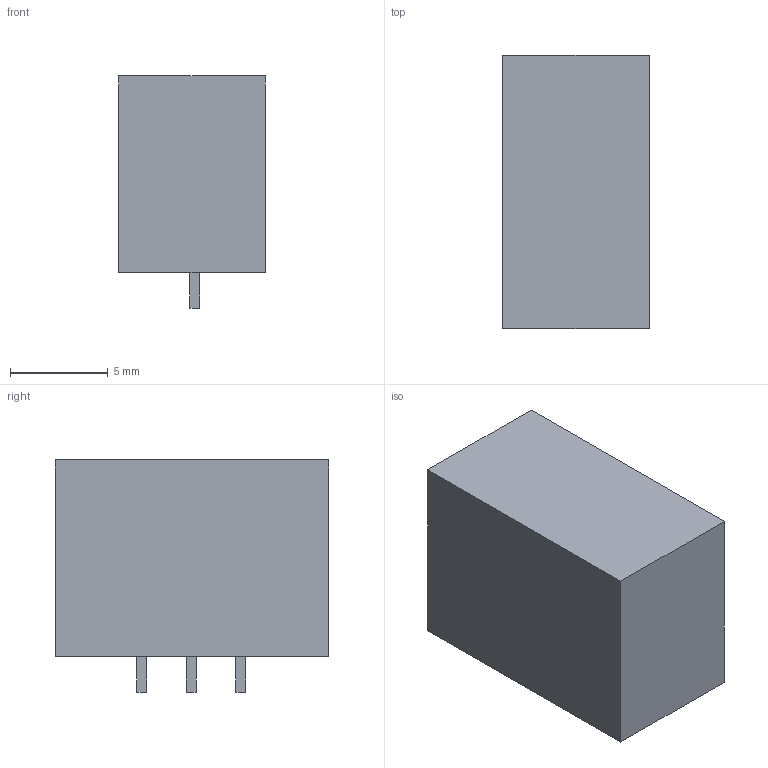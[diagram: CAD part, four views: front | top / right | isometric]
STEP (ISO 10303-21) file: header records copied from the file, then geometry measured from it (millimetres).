
FILE_DESCRIPTION(('FreeCAD Model'),'2;1');
FILE_NAME('Open CASCADE Shape Model','2026-10-15T16:03:42',('FreeCAD'),( 'FreeCAD'),'Open CASCADE STEP processor 7.9','FreeCAD','Unknown');
FILE_SCHEMA(('AUTOMOTIVE_DESIGN { 1 0 10303 214 1 1 1 1 }'));
Length unit declared in the file: millimetre
Products named in the file (1): Open CASCADE STEP translator 7.9 5
Bounding box: 7.5 x 14 x 11.9 mm (x, y, z)
Volume: 1061.9 mm3; surface area: 656.6 mm2
Topology: 4 solids, 4 shells, 24 faces, 48 edges, 32 vertices
Faces by surface type: plane 24
Entity records: 616 total; most frequent: CARTESIAN_POINT 105, DIRECTION 98, ORIENTED_EDGE 96, EDGE_CURVE 48, LINE 48, VECTOR 48, VERTEX_POINT 32, AXIS2_PLACEMENT_3D 25
